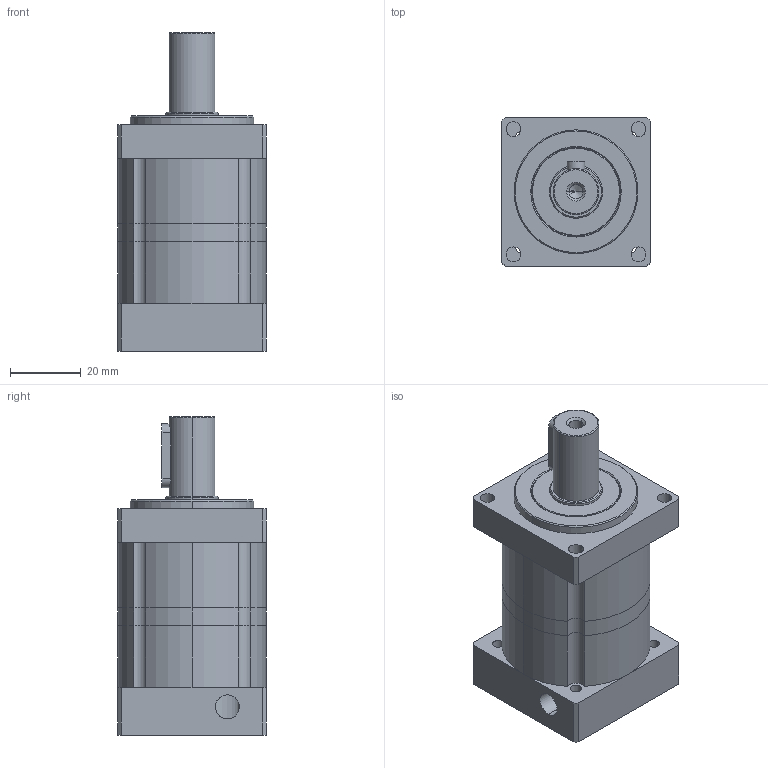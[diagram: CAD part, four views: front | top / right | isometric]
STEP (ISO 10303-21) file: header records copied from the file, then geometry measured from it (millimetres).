
FILE_DESCRIPTION (( 'STEP AP214' ), '1' );
FILE_NAME ('LX-042-005-Rev1.STEP', '2014-06-27T18:00:53', ( '' ), ( '' ), 'SwSTEP 2.0', 'SolidWorks 2014', '' );
FILE_SCHEMA (( 'AUTOMOTIVE_DESIGN' ));
Length unit declared in the file: millimetre
Products named in the file (1): LX-042-005-Rev1
Bounding box: 42 x 42 x 90 mm (x, y, z)
Volume: 65212.4 mm3; surface area: 30594.7 mm2
Topology: 6 solids, 6 shells, 164 faces, 395 edges, 252 vertices
Faces by surface type: cylinder 101, plane 40, cone 21, torus 2
Entity records: 6773 total; most frequent: CARTESIAN_POINT 941, DIRECTION 937, ORIENTED_EDGE 786, EDGE_CURVE 393, AXIS2_PLACEMENT_3D 386, VERTEX_POINT 252, CIRCLE 221, EDGE_LOOP 203
